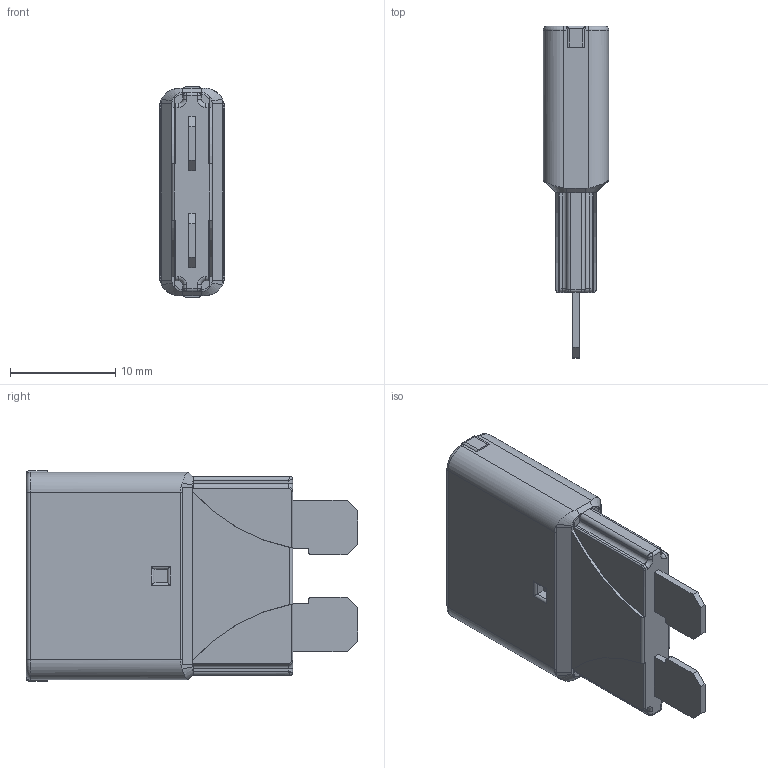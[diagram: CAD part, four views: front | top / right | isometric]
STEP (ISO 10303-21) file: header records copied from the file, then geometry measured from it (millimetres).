
FILE_DESCRIPTION(/* description */ (''),/* implementation_level */ '2;1');
FILE_NAME(/* name */ 'C:\Users\Hani\Desktop\work\ACBP4-PL\ACBP4-PL.stp',/* time_stamp */ '2021-08-06T14:51:10-07:00',/* author */ ('Hani'),/* organization */ (''),/* preprocessor_version */ 'ST-DEVELOPER v17',/* originating_system */ 'Autodesk Inventor 2019',/* authorisation */ '');
FILE_SCHEMA (('AUTOMOTIVE_DESIGN { 1 0 10303 214 3 1 1 }'));
Length unit declared in the file: inch
Products named in the file (4): ACBP4-PL; ACBP4-PL_1; terminal; terminal_MIR
Assembly tree (3 placements, depth 2):
  ACBP4-PL
    ACBP4-PL_1
    terminal
    terminal_MIR
Bounding box: 6.2 x 31.51 x 19.95 mm (x, y, z)
Volume: 2496 mm3; surface area: 1535.5 mm2
Topology: 3 solids, 3 shells, 174 faces, 434 edges, 264 vertices
Faces by surface type: plane 80, cylinder 62, torus 16, bspline 12, cone 4
Entity records: 5668 total; most frequent: CARTESIAN_POINT 1470, ORIENTED_EDGE 860, DIRECTION 840, EDGE_CURVE 430, AXIS2_PLACEMENT_3D 297, VERTEX_POINT 264, LINE 246, VECTOR 246
